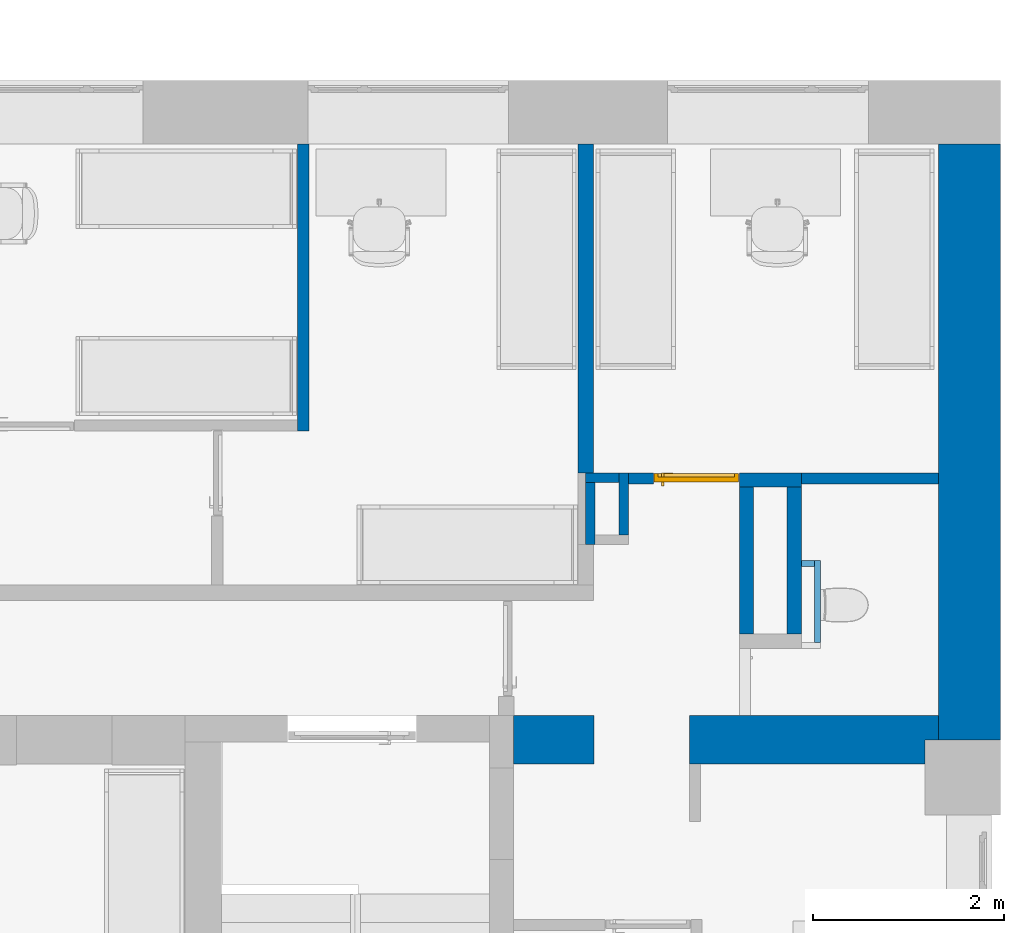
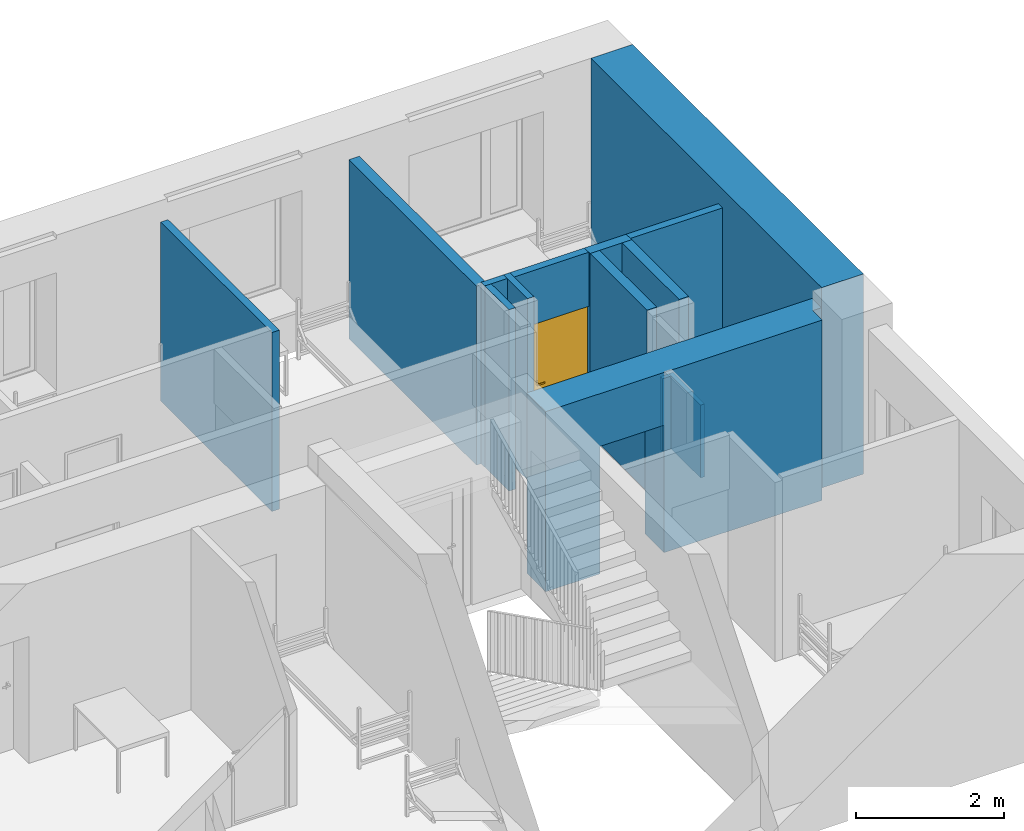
# One storey, part 13 of 48: 14 walls, 1 door, 4 openings.
"""IFC2X3 building model written with IfcOpenShell, lengths in millimetres."""

import ifcopenshell
import ifcopenshell.guid

model = None  # the IFC model being written
_history = None  # IfcOwnerHistory: only IFC2X3 demands one
_inside = {}  # id of a spatial element -> (the spatial element, [elements in it])
_under = {}  # id of a project, library or spatial element -> (it, [spatial elements below it])
_declared = {}  # id of a project -> (the project, [libraries it declares])
_typed = {}  # id of a type object -> (the type object, [elements of that type])
_made_of = {}  # id of a material, layer set ... -> (it, [elements and type objects made of it])


def new_model(schema):
    """Start an empty IFC model of exactly this schema.

    Asked for "IFC4X3", IfcOpenShell would pick the latest addendum, in which some entities
    have other attributes; the version numbers below select the first issue.
    IFC2X3 requires an IfcOwnerHistory on every rooted entity: one is made here for all.
    """
    global model, _history
    if schema == "IFC4X3":
        model = ifcopenshell.file(schema_version=(4, 3, 0, 0))
    else:
        model = ifcopenshell.file(schema=schema)
    _inside.clear()
    _under.clear()
    _declared.clear()
    _typed.clear()
    _made_of.clear()
    _history = None
    if model.schema == "IFC2X3":
        org = make("IfcOrganization", Name="unknown")
        user = make(
            "IfcPersonAndOrganization",
            ThePerson=make("IfcPerson", FamilyName="unknown"),
            TheOrganization=org,
        )
        app = make(
            "IfcApplication",
            ApplicationDeveloper=org,
            Version="unknown",
            ApplicationFullName="unknown",
            ApplicationIdentifier="unknown",
        )
        _history = make(
            "IfcOwnerHistory",
            OwningUser=user,
            OwningApplication=app,
            ChangeAction="ADDED",
            CreationDate=0,
        )
    return model


def make(cls, **values):
    """One entity of the class cls with the attributes given. An attribute that is None is left unset."""
    return model.create_entity(
        cls, **{name: value for name, value in values.items() if value is not None}
    )


def entity(cls, *values):
    """Any entity or typed value of the class cls, its attributes in the order of the schema. None: left unset."""
    e = model.create_entity(cls)
    for i, value in enumerate(values):
        if value is not None:
            e[i] = value
    return e


def rooted(cls, **values):
    """An entity with a GlobalId (a new one), such as an element, a storey or a relation."""
    return make(cls, GlobalId=ifcopenshell.guid.new(), OwnerHistory=_history, **values)


def si_unit(unit_type, name, prefix=None):
    """IfcSIUnit, for example si_unit("LENGTHUNIT", "METRE", prefix="MILLI")."""
    return make("IfcSIUnit", UnitType=unit_type, Prefix=prefix, Name=name)


def converted_unit(unit_type, name, factor, base, dimensions=None, offset=None):
    """IfcConversionBasedUnit, such as the inch: factor (a typed value) times the base unit."""
    return make(
        "IfcConversionBasedUnit"
        if offset is None
        else "IfcConversionBasedUnitWithOffset",
        ConversionOffset=offset,
        Dimensions=None
        if dimensions is None
        else entity("IfcDimensionalExponents", *dimensions),
        UnitType=unit_type,
        Name=name,
        ConversionFactor=make(
            "IfcMeasureWithUnit", ValueComponent=factor, UnitComponent=base
        ),
    )


def derived_unit(unit_type, elements):
    """IfcDerivedUnit: a product of units, each with its exponent."""
    return make(
        "IfcDerivedUnit",
        Elements=[
            make("IfcDerivedUnitElement", Unit=unit, Exponent=power)
            for unit, power in elements
        ],
        UnitType=unit_type,
    )


def assignment(units):
    """IfcUnitAssignment: the units of a project."""
    return None if units is None else make("IfcUnitAssignment", Units=units)


def point(xyz):
    """IfcCartesianPoint."""
    return None if xyz is None else make("IfcCartesianPoint", Coordinates=xyz)


def direction(xyz):
    """IfcDirection."""
    return None if xyz is None else make("IfcDirection", DirectionRatios=xyz)


def frame(location, z_axis=None, x_axis=None):
    """IfcAxis2Placement3D, a coordinate frame: its origin and axes. An axis left out is left unset."""
    return make(
        "IfcAxis2Placement3D",
        Location=point(location),
        Axis=direction(z_axis),
        RefDirection=direction(x_axis),
    )


def frame_2d(location, x_axis=None):
    """IfcAxis2Placement2D, a coordinate frame in the plane: its origin and x axis."""
    return make(
        "IfcAxis2Placement2D", Location=point(location), RefDirection=direction(x_axis)
    )


def origin():
    """The frame at (0, 0, 0) with its axes left unset."""
    return frame((0.0, 0.0, 0.0))


def place(relative_to, where):
    """IfcLocalPlacement: puts the frame where relative to a parent placement (None: the world)."""
    return make(
        "IfcLocalPlacement", PlacementRelTo=relative_to, RelativePlacement=where
    )


def context(
    kind, dimensions, precision=None, world=None, true_north=None, identifier=None
):
    """IfcGeometricRepresentationContext, for example the 3D "Model" context."""
    return make(
        "IfcGeometricRepresentationContext",
        ContextIdentifier=identifier,
        ContextType=kind,
        CoordinateSpaceDimension=dimensions,
        Precision=precision,
        WorldCoordinateSystem=world,
        TrueNorth=true_north,
    )


def subcontext(parent, identifier, kind, view, scale=None):
    """IfcGeometricRepresentationSubContext, for example "Body" below "Model"."""
    return make(
        "IfcGeometricRepresentationSubContext",
        ContextIdentifier=identifier,
        ContextType=kind,
        ParentContext=parent,
        TargetScale=scale,
        TargetView=view,
    )


def project(units=None, contexts=None):
    """IfcProject with its units and contexts."""
    return rooted(
        "IfcProject",
        Name="project",
        RepresentationContexts=contexts,
        UnitsInContext=assignment(units),
    )


def spatial(cls, under=None, at=None, **own):
    """A site, building, storey or space (cls), placed at a placement, below another one or the project."""
    s = rooted(cls, ObjectPlacement=at, **own)
    if under is not None:
        _under.setdefault(under.id(), (under, []))[1].append(s)
    return s


def profile(cls, at=None, kind="AREA", **sizes):
    """A parametric profile (cls). Its sizes go by their IFC names, for example OverallWidth=200.0."""
    return make(cls, ProfileType=kind, Position=at, **sizes)


def rectangle(**sizes):
    """IfcRectangleProfileDef."""
    return profile("IfcRectangleProfileDef", **sizes)


def extrude(swept, where, along, depth):
    """IfcExtrudedAreaSolid: the profile swept, set in the frame where, extruded along a direction by depth."""
    return make(
        "IfcExtrudedAreaSolid",
        SweptArea=swept,
        Position=where,
        ExtrudedDirection=direction(along),
        Depth=depth,
    )


def faces_of(points, faces, orient=None, outer=None):
    """IfcFace entities. A face is a list of loops; a loop is a list of indices into points, from 0.

    orient and outer hold one flag for each loop. By default every Orientation is true, the
    first loop of a face is its IfcFaceOuterBound and the others are IfcFaceBound.
    """
    made = []
    for i, loops in enumerate(faces):
        bounds = []
        for j, loop in enumerate(loops):
            is_outer = j == 0 if outer is None else outer[i][j]
            bounds.append(
                make(
                    "IfcFaceOuterBound" if is_outer else "IfcFaceBound",
                    Bound=make("IfcPolyLoop", Polygon=[points[k] for k in loop]),
                    Orientation=True if orient is None else orient[i][j],
                )
            )
        made.append(make("IfcFace", Bounds=bounds))
    return made


def faceted_brep(points, faces, orient=None, outer=None, voids=None):
    """IfcFacetedBrep: a solid bounded by flat faces; with voids (closed shells), ...WithVoids."""
    shared = [point(p) for p in points]
    hull = make("IfcClosedShell", CfsFaces=faces_of(shared, faces, orient, outer))
    if voids is None:
        return make("IfcFacetedBrep", Outer=hull)
    return make(
        "IfcFacetedBrepWithVoids",
        Outer=hull,
        Voids=[
            make(cls, CfsFaces=faces_of(shared, fs, o, b)) for cls, fs, o, b in voids
        ],
    )


def shape(context_of_items, identifier, shape_type, items):
    """IfcShapeRepresentation: the items that make up one representation, for example the "Body"."""
    return make(
        "IfcShapeRepresentation",
        ContextOfItems=context_of_items,
        RepresentationIdentifier=identifier,
        RepresentationType=shape_type,
        Items=items,
    )


def source(mapping_origin, context_of_items, identifier, shape_type, items):
    """IfcRepresentationMap: a shape defined once, which mapped items show again and again."""
    return make(
        "IfcRepresentationMap",
        MappingOrigin=mapping_origin,
        MappedRepresentation=shape(context_of_items, identifier, shape_type, items),
    )


def transform(
    local_origin,
    x_axis=None,
    y_axis=None,
    z_axis=None,
    scale=None,
    scale2=None,
    scale3=None,
    uniform=True,
):
    """IfcCartesianTransformationOperator3D, or its non-uniform kind. x_axis, y_axis, z_axis: its Axis1, 2, 3."""
    if uniform:
        return make(
            "IfcCartesianTransformationOperator3D",
            Axis1=direction(x_axis),
            Axis2=direction(y_axis),
            LocalOrigin=point(local_origin),
            Scale=scale,
            Axis3=direction(z_axis),
        )
    return make(
        "IfcCartesianTransformationOperator3DnonUniform",
        Axis1=direction(x_axis),
        Axis2=direction(y_axis),
        LocalOrigin=point(local_origin),
        Scale=scale,
        Axis3=direction(z_axis),
        Scale2=scale2,
        Scale3=scale3,
    )


def mapped(mapping_source, mapping_target):
    """IfcMappedItem: shows the shape of a source again, moved by a transform."""
    return make(
        "IfcMappedItem", MappingSource=mapping_source, MappingTarget=mapping_target
    )


def material(Name=None, Category=None):
    """IfcMaterial."""
    return make("IfcMaterial", Name=Name, Category=Category)


def material_list(materials):
    """IfcMaterialList."""
    return make("IfcMaterialList", Materials=materials)


def layer(
    of_material, thickness, ventilated=None, Name=None, Category=None, Priority=None
):
    """IfcMaterialLayer: one layer of a wall or slab, of a material (None: an air gap)."""
    return make(
        "IfcMaterialLayer",
        Material=of_material,
        LayerThickness=thickness,
        IsVentilated=ventilated,
        Name=Name,
        Category=Category,
        Priority=Priority,
    )


def layer_set(layers, Name=None):
    """IfcMaterialLayerSet."""
    return make("IfcMaterialLayerSet", MaterialLayers=layers, LayerSetName=Name)


def layer_usage(for_layer_set, set_direction, sense, offset, extent=None):
    """IfcMaterialLayerSetUsage: how a layer set lies in its element."""
    return make(
        "IfcMaterialLayerSetUsage",
        ForLayerSet=for_layer_set,
        LayerSetDirection=set_direction,
        DirectionSense=sense,
        OffsetFromReferenceLine=offset,
        ReferenceExtent=extent,
    )


def made_of(thing, what):
    """Note that an element or type object is made of a material, layer set ...; save() writes the relation."""
    if what is not None:
        _made_of.setdefault(what.id(), (what, []))[1].append(thing)
    return thing


def type_object(cls, material=None, **own):
    """A type object (cls), such as IfcWallType, which elements share."""
    return made_of(rooted(cls, **own), material)


def type_shapes(of_type, sources):
    """Give a type object the sources (RepresentationMaps) that its elements show as mapped items."""
    of_type.RepresentationMaps = sources


def element(
    cls,
    number,
    at=None,
    inside=None,
    cuts=None,
    type_object=None,
    material=None,
    context=None,
    identifier="Body",
    shape_type=None,
    held_by="IfcProductDefinitionShape",
    body=None,
    shapes=None,
    **own,
):
    """One element of the class cls, such as IfcWall. Its Tag is "e" and its number.

    at: its placement. inside: the storey or other place that contains it. cuts: it is an
    opening in that element (IfcRelVoidsElement). A single representation is given by context,
    identifier, shape_type and body (its items); several are given by shapes. held_by: the class
    of the entity that holds the representations. save() writes the other relations.
    """
    e = rooted(cls, Tag="e%d" % number, ObjectPlacement=at, **own)
    if body is not None:
        shapes = [shape(context, identifier, shape_type, body)]
    if shapes is not None:
        e.Representation = make(held_by, Representations=shapes)
    if inside is not None:
        _inside.setdefault(inside.id(), (inside, []))[1].append(e)
    if cuts is not None:
        rooted(
            "IfcRelVoidsElement", RelatingBuildingElement=cuts, RelatedOpeningElement=e
        )
    if type_object is not None:
        _typed.setdefault(type_object.id(), (type_object, []))[1].append(e)
    return made_of(e, material)


def fill(opening, filler):
    """IfcRelFillsElement: the door or window that sits in an opening."""
    return rooted(
        "IfcRelFillsElement",
        RelatingOpeningElement=opening,
        RelatedBuildingElement=filler,
    )


def aggregate(whole, parts):
    """IfcRelAggregates: a whole, such as a stair, and the parts it consists of."""
    return rooted("IfcRelAggregates", RelatingObject=whole, RelatedObjects=parts)


def save(model, path):
    """Write the relations noted so far, then the file.

    IfcRelAggregates (storeys below a building ...), IfcRelContainedInSpatialStructure (elements
    in a storey), IfcRelDefinesByType, IfcRelAssociatesMaterial and IfcRelDeclares: one each for
    every whole, place, type object, material and project.
    """
    for whole, parts in _under.values():
        aggregate(whole, parts)
    for where, things in _inside.values():
        rooted(
            "IfcRelContainedInSpatialStructure",
            RelatedElements=things,
            RelatingStructure=where,
        )
    for kind, things in _typed.values():
        rooted("IfcRelDefinesByType", RelatedObjects=things, RelatingType=kind)
    for what, things in _made_of.values():
        rooted("IfcRelAssociatesMaterial", RelatedObjects=things, RelatingMaterial=what)
    for by, libraries in _declared.values():
        rooted("IfcRelDeclares", RelatingContext=by, RelatedDefinitions=libraries)
    model.write(path)


model = new_model("IFC2X3")

# Units and contexts
model_context = context("Model", 3, precision=0.01, world=origin(), true_north=direction((6.12303176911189e-17, 1.0)))
body_context = subcontext(model_context, "Body", "Model", "MODEL_VIEW")
ifc_project = project(units=[si_unit("LENGTHUNIT", "METRE", prefix="MILLI"), si_unit("AREAUNIT", "SQUARE_METRE"), si_unit("VOLUMEUNIT", "CUBIC_METRE"), converted_unit("PLANEANGLEUNIT", "DEGREE", entity("IfcRatioMeasure", 0.0174532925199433), si_unit("PLANEANGLEUNIT", "RADIAN"), dimensions=[0, 0, 0, 0, 0, 0, 0]), si_unit("MASSUNIT", "GRAM", prefix="KILO"), derived_unit("MASSDENSITYUNIT", [(si_unit("MASSUNIT", "GRAM", prefix="KILO"), 1), (si_unit("LENGTHUNIT", "METRE"), -3)]), si_unit("TIMEUNIT", "SECOND"), si_unit("FREQUENCYUNIT", "HERTZ"), si_unit("THERMODYNAMICTEMPERATUREUNIT", "DEGREE_CELSIUS"), derived_unit("THERMALTRANSMITTANCEUNIT", [(si_unit("MASSUNIT", "GRAM", prefix="KILO"), 1), (si_unit("THERMODYNAMICTEMPERATUREUNIT", "KELVIN"), -1), (si_unit("TIMEUNIT", "SECOND"), -3)]), derived_unit("VOLUMETRICFLOWRATEUNIT", [(si_unit("LENGTHUNIT", "METRE"), 3), (si_unit("TIMEUNIT", "SECOND"), -1)]), si_unit("ELECTRICCURRENTUNIT", "AMPERE"), si_unit("ELECTRICVOLTAGEUNIT", "VOLT"), si_unit("POWERUNIT", "WATT"), si_unit("FORCEUNIT", "NEWTON", prefix="KILO"), si_unit("ILLUMINANCEUNIT", "LUX"), si_unit("LUMINOUSFLUXUNIT", "LUMEN"), si_unit("LUMINOUSINTENSITYUNIT", "CANDELA"), derived_unit("USERDEFINED", [(si_unit("MASSUNIT", "GRAM", prefix="KILO"), -1), (si_unit("LENGTHUNIT", "METRE"), -2), (si_unit("TIMEUNIT", "SECOND"), 3), (si_unit("LUMINOUSFLUXUNIT", "LUMEN"), 1)]), derived_unit("LINEARVELOCITYUNIT", [(si_unit("LENGTHUNIT", "METRE"), 1), (si_unit("TIMEUNIT", "SECOND"), -1)]), si_unit("PRESSUREUNIT", "PASCAL"), derived_unit("USERDEFINED", [(si_unit("LENGTHUNIT", "METRE"), -2), (si_unit("MASSUNIT", "GRAM", prefix="KILO"), 1), (si_unit("TIMEUNIT", "SECOND"), -2)]), derived_unit("LINEARFORCEUNIT", [(si_unit("MASSUNIT", "GRAM", prefix="KILO"), 1), (si_unit("LENGTHUNIT", "METRE"), 1), (si_unit("TIMEUNIT", "SECOND"), -2), (si_unit("LENGTHUNIT", "METRE"), -1)]), derived_unit("PLANARFORCEUNIT", [(si_unit("MASSUNIT", "GRAM", prefix="KILO"), 1), (si_unit("LENGTHUNIT", "METRE"), 1), (si_unit("TIMEUNIT", "SECOND"), -2), (si_unit("LENGTHUNIT", "METRE"), -2)])], contexts=[model_context])

# Site, building, storey
site_placement = place(None, origin())
site = spatial("IfcSite", under=ifc_project, at=site_placement, Name="Default", CompositionType="ELEMENT")
building_placement = place(site_placement, origin())
building = spatial("IfcBuilding", under=site, at=building_placement, Name="SMA ARH", CompositionType="ELEMENT")
storey_placement = place(building_placement, frame((0.0, 0.0, 3300.0)))
storey = spatial("IfcBuildingStorey", under=building, at=storey_placement, Name="2 Korrus", CompositionType="ELEMENT", Elevation=3299.99999999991)

# Wall
ifc_material_1 = material(Name="_ol.olev sein")
ifc_layer_1 = layer(ifc_material_1, 650.0)
ifc_layer_set_1 = layer_set([ifc_layer_1], Name="Basic Wall:Generic - 650mm")
ifc_layer_usage_1 = layer_usage(ifc_layer_set_1, "AXIS2", "POSITIVE", -325.0)
wall_type_1 = type_object("IfcWallType", Name="Basic Wall:Generic - 650mm", PredefinedType="STANDARD", material=ifc_layer_set_1)
wall_1_placement = place(storey_placement, frame((38640.0, 6265.0, 0.0), z_axis=(0.0, 0.0, 1.0), x_axis=(0.0, 1.0, 0.0)))
element("IfcWallStandardCase", 1, at=wall_1_placement, inside=storey, type_object=wall_type_1, material=ifc_layer_usage_1, Name="Basic Wall:Generic - 650mm", ObjectType="Basic Wall:Generic - 650mm", context=body_context, shape_type="SweptSolid", body=[
    extrude(rectangle(XDim=6234.99999999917, YDim=650.0, at=frame_2d((3117.49999999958, -2.27373675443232e-13), x_axis=(-1.0, 0.0))), origin(), (0.0, 0.0, 1.0), 3299.99999999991),
])

# Wall, opening
ifc_material_2 = material(Name="EST. Müüritis. Väikeplokk. Kergkruusplokk")
ifc_layer_2 = layer(ifc_material_2, 150.0)
ifc_layer_set_2 = layer_set([ifc_layer_2], Name="Basic Wall:SS-02_ 150mm šahtide vahesein")
ifc_layer_usage_2 = layer_usage(ifc_layer_set_2, "AXIS2", "POSITIVE", -75.0)
wall_type_2 = type_object("IfcWallType", Name="Basic Wall:SS-02_ 150mm šahtide vahesein", PredefinedType="STANDARD", material=ifc_layer_set_2)
wall_2_placement = place(storey_placement, frame((36230.0, 8984.5014052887, 0.0)))
wall_2 = element("IfcWallStandardCase", 2, at=wall_2_placement, inside=storey, type_object=wall_type_2, material=ifc_layer_usage_2, Name="Basic Wall:SS-02_ 150mm šahtide vahesein", ObjectType="Basic Wall:SS-02_ 150mm šahtide vahesein", context=body_context, shape_type="SweptSolid", body=[
    extrude(rectangle(XDim=649.999999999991, YDim=150.000000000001, at=frame_2d((324.999999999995, 4.68958205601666e-13), x_axis=(-1.0, 0.0))), origin(), (0.0, 0.0, 1.0), 2989.99999999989),
])
opening_1_placement = place(wall_2_placement, origin())
element("IfcOpeningElement", 3, at=opening_1_placement, cuts=wall_2, Name="Basic Wall:SS-02_ 150mm šahtide vahesein", ObjectType="Opening", context=body_context, shape_type="SweptSolid", body=[
    extrude(rectangle(XDim=2099.99999999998, YDim=899.999999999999, at=frame_2d((-2.1600499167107e-12, 0.0), x_axis=(0.0, 1.0))), frame((-450.0, -1449.0, 1050.0), z_axis=(0.0, 1.0, 0.0), x_axis=(-1.0, 0.0, 0.0)), (0.0, 0.0, 1.0), 3048.0),
])

# Wall
ifc_layer_usage_3 = layer_usage(ifc_layer_set_2, "AXIS2", "POSITIVE", -75.0)
wall_3_placement = place(storey_placement, frame((36805.0, 8909.5014052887, 0.0), z_axis=(0.0, 0.0, 1.0), x_axis=(0.0, -1.0, 0.0)))
element("IfcWallStandardCase", 4, at=wall_3_placement, inside=storey, type_object=wall_type_2, material=ifc_layer_usage_3, Name="Basic Wall:SS-02_ 150mm šahtide vahesein", ObjectType="Basic Wall:SS-02_ 150mm šahtide vahesein", context=body_context, shape_type="SweptSolid", body=[
    extrude(rectangle(XDim=1539.50139590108, YDim=150.000000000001, at=frame_2d((769.750697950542, 0.0), x_axis=(-1.0, 0.0))), origin(), (0.0, 0.0, 1.0), 2989.99999999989),
])

# Wall, openings
ifc_layer_usage_4 = layer_usage(ifc_layer_set_2, "AXIS2", "POSITIVE", -75.0)
wall_4_placement = place(storey_placement, frame((36305.0, 7370.0, 0.0), z_axis=(0.0, 0.0, 1.0), x_axis=(0.0, 1.0, 0.0)))
wall_4 = element("IfcWallStandardCase", 5, at=wall_4_placement, inside=storey, type_object=wall_type_2, material=ifc_layer_usage_4, Name="Basic Wall:SS-02_ 150mm šahtide vahesein", ObjectType="Basic Wall:SS-02_ 150mm šahtide vahesein", context=body_context, shape_type="SweptSolid", body=[
    extrude(rectangle(XDim=1539.50139590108, YDim=150.000000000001, at=frame_2d((769.750697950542, 0.0), x_axis=(-1.0, 0.0))), origin(), (0.0, 0.0, 1.0), 2989.99999999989),
])
opening_2_placement = place(wall_4_placement, origin())
element("IfcOpeningElement", 6, at=opening_2_placement, cuts=wall_4, Name="Basic Wall:SS-02_ 150mm šahtide vahesein", ObjectType="Opening", context=body_context, shape_type="SweptSolid", body=[
    extrude(rectangle(XDim=2099.99999999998, YDim=700.0, at=frame_2d((0.0, 5.40012479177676e-13), x_axis=(1.0, 0.0))), frame((-500.000009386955, -1449.0, 1050.0), z_axis=(0.0, 1.0, 0.0), x_axis=(0.0, 0.0, 1.0)), (0.0, 0.0, 1.0), 3048.0),
])
opening_3_placement = place(wall_4_placement, origin())
element("IfcOpeningElement", 7, at=opening_3_placement, cuts=wall_4, Name="Basic Wall:SS-02_ 150mm šahtide vahesein", ObjectType="Opening", context=body_context, shape_type="SweptSolid", body=[
    extrude(rectangle(XDim=2099.99999999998, YDim=116.0, at=frame_2d((0.0, 0.0), x_axis=(0.0, 1.0))), frame((1631.50139590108, 75.0, 1050.0), z_axis=(0.0, 1.0, 0.0), x_axis=(1.0, 0.0, 0.0)), (0.0, 0.0, 1.0), 899.999999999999),
])

# Walls
ifc_layer_3 = layer(ifc_material_1, 510.0)
ifc_layer_set_3 = layer_set([ifc_layer_3], Name="Basic Wall:Generic - 510mm")
wall_type_3 = type_object("IfcWallType", Name="Basic Wall:Generic - 510mm", PredefinedType="STANDARD", material=ifc_layer_set_3)
wall_5_placement = place(storey_placement, frame((38315.0, 6265.0, 0.0), z_axis=(0.0, 0.0, 1.0), x_axis=(-1.0, 0.0, 0.0)))
element("IfcWall", 8, at=wall_5_placement, inside=storey, type_object=wall_type_3, material=ifc_material_1, Name="Basic Wall:Generic - 510mm", ObjectType="Basic Wall:Generic - 510mm", context=body_context, shape_type="Brep", body=[
    faceted_brep([(2605.0, -255.0, 2100.0), (3605.0, -255.0, 2100.0), (3605.0, -255.0, 0.0), (4450.0, -255.0, 0.0), (4450.0, -255.0, 2970.0), (0.0, -255.0, 2970.0), (0.0, -255.0, 0.0), (2605.0, -255.0, 0.0), (3605.0, 255.0, 2100.0), (2605.0, 255.0, 2100.0), (2605.0, 255.0, 0.0), (2489.0, 255.0, 0.0), (140.0, 255.0, 0.0), (140.0, 255.0, 2970.0), (4450.0, 255.0, 2970.0), (4450.0, 255.0, 0.0), (3605.0, 255.0, 0.0), (0.0, 0.0, 0.0), (140.0, 0.0, 0.0), (0.0, 0.0, 2970.0), (140.0, 0.0, 2970.0), (4450.0, -245.0, 2970.0)], [[[0, 1, 2, 3, 4, 5, 6, 7]], [[8, 9, 10, 11, 12, 13, 14, 15, 16]], [[6, 17, 18, 12, 11, 10, 7]], [[17, 6, 5, 19]], [[18, 17, 19, 20]], [[12, 18, 20, 13]], [[8, 1, 0, 9]], [[1, 8, 16, 2]], [[9, 0, 7, 10]], [[3, 15, 14, 21, 4]], [[5, 4, 21, 14, 13, 20, 19]], [[15, 3, 2, 16]]]),
])
ifc_material_3 = material(Name="EST. Ehitusplaat. Kipsplaat")
ifc_layer_4 = layer(ifc_material_3, 12.5)
ifc_layer_5 = layer(ifc_material_3, 12.5)
ifc_material_4 = material(Name="EST. Soojustus. Mineraalvill. Default")
ifc_layer_6 = layer(ifc_material_4, 50.0)
ifc_layer_7 = layer(ifc_material_3, 12.5)
ifc_layer_8 = layer(ifc_material_4, 50.0)
ifc_layer_9 = layer(ifc_material_3, 12.5)
ifc_layer_10 = layer(ifc_material_3, 12.5)
ifc_layer_set_4 = layer_set([ifc_layer_4, ifc_layer_5, ifc_layer_6, ifc_layer_7, ifc_layer_8, ifc_layer_9, ifc_layer_10], Name="Basic Wall:SS-04_Kips, 50+50 mm metallkarkass 2")
ifc_layer_usage_5 = layer_usage(ifc_layer_set_4, "AXIS2", "NEGATIVE", 81.25)
wall_type_4 = type_object("IfcWallType", Name="Basic Wall:SS-04_Kips, 50+50 mm metallkarkass 2", PredefinedType="STANDARD", material=ifc_layer_set_4)
wall_6_placement = place(storey_placement, frame((34625.5000000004, 12500.0, 0.0), z_axis=(0.0, 0.0, 1.0), x_axis=(0.0, -1.0, 0.0)))
element("IfcWallStandardCase", 9, at=wall_6_placement, inside=storey, type_object=wall_type_4, material=ifc_layer_usage_5, Name="Basic Wall:SS-04_Kips, 50+50 mm metallkarkass 2", ObjectType="Basic Wall:SS-04_Kips, 50+50 mm metallkarkass 2", context=body_context, shape_type="SweptSolid", body=[
    extrude(rectangle(XDim=3440.49859471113, YDim=162.499999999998, at=frame_2d((1720.24929735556, 1.70530256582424e-13), x_axis=(-1.0, 0.0))), origin(), (0.0, 0.0, 1.0), 2949.99999999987),
])
ifc_layer_11 = layer(ifc_material_3, 12.5)
ifc_layer_12 = layer(ifc_material_3, 12.5)
ifc_layer_13 = layer(ifc_material_4, 66.0)
ifc_layer_14 = layer(ifc_material_3, 12.5)
ifc_layer_15 = layer(ifc_material_3, 12.5)
ifc_layer_set_5 = layer_set([ifc_layer_11, ifc_layer_12, ifc_layer_13, ifc_layer_14, ifc_layer_15], Name="Basic Wall:SS-05_Kips, 66mm metallkarkass")
ifc_layer_usage_6 = layer_usage(ifc_layer_set_5, "AXIS2", "NEGATIVE", 58.0)
wall_type_5 = type_object("IfcWallType", Name="Basic Wall:SS-05_Kips, 66mm metallkarkass", PredefinedType="STANDARD", material=ifc_layer_set_5)
wall_7_placement = place(storey_placement, frame((31667.0, 12500.0, 0.0), z_axis=(0.0, 0.0, 1.0), x_axis=(0.0, -1.0, 0.0)))
element("IfcWallStandardCase", 10, at=wall_7_placement, inside=storey, type_object=wall_type_5, material=ifc_layer_usage_6, Name="Basic Wall:SS-05_Kips, 66mm metallkarkass", ObjectType="Basic Wall:SS-05_Kips, 66mm metallkarkass", context=body_context, shape_type="SweptSolid", body=[
    extrude(rectangle(XDim=3005.49999999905, YDim=116.0, at=frame_2d((1502.74999999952, -1.27897692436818e-13), x_axis=(-1.0, 0.0))), origin(), (0.0, 0.0, 1.0), 2949.99999999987),
])
ifc_layer_usage_7 = layer_usage(ifc_layer_set_5, "AXIS2", "NEGATIVE", 58.0)
wall_8_placement = place(storey_placement, frame((36880.0, 9001.5014052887, 0.0)))
element("IfcWallStandardCase", 11, at=wall_8_placement, inside=storey, type_object=wall_type_5, material=ifc_layer_usage_7, Name="Basic Wall:SS-05_Kips, 66mm metallkarkass", ObjectType="Basic Wall:SS-05_Kips, 66mm metallkarkass", context=body_context, shape_type="SweptSolid", body=[
    extrude(rectangle(XDim=1435.00001631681, YDim=116.0, at=frame_2d((717.500008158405, 4.2632564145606e-14), x_axis=(-1.0, 0.0))), origin(), (0.0, 0.0, 1.0), 2989.99999999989),
])

# Wall, opening, door
ifc_layer_usage_8 = layer_usage(ifc_layer_set_5, "AXIS2", "NEGATIVE", 58.0)
wall_9_placement = place(storey_placement, frame((36230.0, 9001.5014052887, 0.0), z_axis=(0.0, 0.0, 1.0), x_axis=(-1.0, 0.0, 0.0)))
wall_9 = element("IfcWallStandardCase", 12, at=wall_9_placement, inside=storey, type_object=wall_type_5, material=ifc_layer_usage_8, Name="Basic Wall:SS-05_Kips, 66mm metallkarkass", ObjectType="Basic Wall:SS-05_Kips, 66mm metallkarkass", context=body_context, shape_type="SweptSolid", body=[
    extrude(rectangle(XDim=1160.7499836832, YDim=116.0, at=frame_2d((580.374991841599, 2.70006239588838e-13), x_axis=(-1.0, 0.0))), origin(), (0.0, 0.0, 1.0), 2989.99999999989),
])
opening_4_placement = place(wall_9_placement, frame((1.63164025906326e-05, -58.0, 0.0)))
opening_4 = element("IfcOpeningElement", 13, at=opening_4_placement, cuts=wall_9, Name="SMA_D01, 1-poolne:SU-P-05 - 900x2100 TUBA:1", ObjectType="Opening", context=body_context, shape_type="SweptSolid", body=[
    extrude(rectangle(XDim=2099.99999999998, YDim=900.0, at=frame_2d((1049.99999999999, 450.0), x_axis=(1.0, 0.0))), frame((0.0, 0.0, 0.0), z_axis=(0.0, 1.0, 0.0), x_axis=(0.0, 0.0, 1.0)), (0.0, 0.0, 1.0), 116.0),
])
ifc_material_5 = material(Name="EST. Metall. Alumiinium. Värvitud. RAL7023 (Concrete grey)")
ifc_material_6 = material(Name="<Unnamed>")
ifc_material_7 = material(Name="EST. Klaas. 3x. Default")
ifc_material_list = material_list([ifc_material_5, ifc_material_6, ifc_material_5, ifc_material_6, ifc_material_6, ifc_material_7, ifc_material_5])
door_style = type_object("IfcDoorStyle", Name="SMA_D01, 1-poolne:SU-P-05 - 900x2100 TUBA", ConstructionType="NOTDEFINED", OperationType="SINGLE_SWING_LEFT", ParameterTakesPrecedence=False, Sizeable=False, material=ifc_material_list)
shared_shape = source(origin(), body_context, "Body", "Brep", [
    faceted_brep([(790.0, 6.0, 1112.5), (695.0, 6.0, 1112.5), (695.0, 1.0, 1112.5), (815.0, 1.0, 1112.5), (815.0, 44.0, 1112.5), (790.0, 44.0, 1112.5), (790.0, 6.0, 1087.5), (790.0, 44.0, 1087.5), (815.0, 44.0, 1087.5), (815.0, 1.0, 1087.5), (695.0, 1.0, 1087.5), (695.0, 6.0, 1087.5)], [[[0, 1, 2, 3, 4, 5]], [[6, 7, 8, 9, 10, 11]], [[5, 7, 6, 0]], [[4, 8, 7, 5]], [[3, 9, 8, 4]], [[2, 10, 9, 3]], [[1, 11, 10, 2]], [[0, 6, 11, 1]]]),
    faceted_brep([(777.500000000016, 44.0, 1137.5), (827.500000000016, 44.0, 1137.5), (827.500000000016, 46.0, 1137.5), (777.500000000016, 46.0, 1137.5), (777.500000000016, 44.0, 1017.5), (777.500000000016, 46.0, 1017.5), (827.500000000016, 46.0, 1017.5), (827.500000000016, 44.0, 1017.5)], [[[0, 1, 2, 3]], [[4, 5, 6, 7]], [[3, 5, 4, 0]], [[2, 6, 5, 3]], [[1, 7, 6, 2]], [[0, 4, 7, 1]]]),
    faceted_brep([(790.0, 136.0, 1112.5), (790.0, 98.0, 1112.5), (815.0, 98.0, 1112.5), (815.0, 141.0, 1112.5), (695.0, 141.0, 1112.5), (695.0, 136.0, 1112.5), (790.0, 136.0, 1087.5), (695.0, 136.0, 1087.5), (695.0, 141.0, 1087.5), (815.0, 141.0, 1087.5), (815.0, 98.0, 1087.5), (790.0, 98.0, 1087.5)], [[[0, 1, 2, 3, 4, 5]], [[6, 7, 8, 9, 10, 11]], [[1, 0, 6, 11]], [[2, 1, 11, 10]], [[3, 2, 10, 9]], [[4, 3, 9, 8]], [[5, 4, 8, 7]], [[0, 5, 7, 6]]]),
    faceted_brep([(777.500000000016, 98.0, 1137.5), (777.500000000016, 96.0, 1137.5), (827.500000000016, 96.0, 1137.5), (827.500000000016, 98.0, 1137.5), (777.500000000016, 98.0, 1017.5), (827.500000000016, 98.0, 1017.5), (827.500000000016, 96.0, 1017.5), (777.500000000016, 96.0, 1017.5)], [[[0, 1, 2, 3]], [[4, 5, 6, 7]], [[1, 0, 4, 7]], [[2, 1, 7, 6]], [[3, 2, 6, 5]], [[0, 3, 5, 4]]]),
    faceted_brep([(50.0, 6.0, 30.0), (50.0, 46.0, 30.0), (50.0, 46.0, 20.0), (50.0, 46.0, 0.0), (50.0, 6.0, 0.0), (850.0, 6.0, 30.0), (850.0, 6.0, 0.0), (850.0, 46.0, 0.0), (850.0, 46.0, 20.0), (850.0, 46.0, 30.0), (35.0, 46.0, 0.0), (35.0, 96.0, 0.0), (865.0, 96.0, 0.0), (865.0, 46.0, 0.0), (35.0, 96.0, 20.0), (35.0, 46.0, 20.0), (865.0, 96.0, 20.0), (865.0, 46.0, 20.0)], [[[0, 1, 2, 3, 4]], [[5, 6, 7, 8, 9]], [[4, 6, 5, 0]], [[3, 10, 11, 12, 13, 7, 6, 4]], [[9, 8, 2, 1]], [[0, 5, 9, 1]], [[14, 11, 10, 15]], [[16, 17, 13, 12]], [[15, 2, 8, 17, 16, 14]], [[10, 3, 2, 15]], [[14, 16, 12, 11]], [[17, 8, 7, 13]]]),
    faceted_brep([(10.0, 6.0, 0.0), (10.0, 96.0, 0.0), (35.0, 96.0, 0.0), (35.0, 46.0, 0.0), (50.0, 46.0, 0.0), (50.0, 6.0, 0.0), (50.0, 6.0, 2050.0), (850.0, 6.0, 2050.0), (850.0, 6.0, 0.0), (890.0, 6.0, 0.0), (890.0, 6.0, 2090.0), (10.0, 6.0, 2090.0), (50.0, 46.0, 2050.0), (35.0, 46.0, 2065.0), (865.0, 46.0, 2065.0), (865.0, 46.0, 0.0), (850.0, 46.0, 0.0), (850.0, 46.0, 2050.0), (35.0, 96.0, 2065.0), (10.0, 96.0, 2090.0), (890.0, 96.0, 2090.0), (890.0, 96.0, 0.0), (865.0, 96.0, 0.0), (865.0, 96.0, 2065.0)], [[[0, 1, 2, 3, 4, 5]], [[5, 6, 7, 8, 9, 10, 11, 0]], [[4, 12, 6, 5]], [[3, 13, 14, 15, 16, 17, 12, 4]], [[2, 18, 13, 3]], [[1, 19, 20, 21, 22, 23, 18, 2]], [[0, 11, 19, 1]], [[9, 21, 20, 10]], [[8, 16, 15, 22, 21, 9]], [[7, 17, 16, 8]], [[14, 23, 22, 15]], [[6, 12, 17, 7]], [[13, 18, 23, 14]], [[10, 20, 19, 11]]]),
    faceted_brep([(865.0, 46.0, 2065.0), (35.0, 46.0, 2065.0), (35.0, 46.0, 20.0), (865.0, 46.0, 20.0), (865.0, 96.0, 2065.0), (865.0, 96.0, 20.0), (35.0, 96.0, 20.0), (35.0, 96.0, 2065.0)], [[[0, 1, 2, 3]], [[4, 5, 6, 7]], [[3, 5, 4, 0]], [[2, 6, 5, 3]], [[1, 7, 6, 2]], [[0, 4, 7, 1]]]),
])
type_shapes(door_style, [shared_shape])
door_placement = place(opening_4_placement, frame((-1.63164004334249e-05, 0.0, 0.0)))
door = element("IfcDoor", 14, at=door_placement, inside=storey, type_object=door_style, material=ifc_material_5, Name="SMA_D01, 1-poolne:SU-P-05 - 900x2100 TUBA", ObjectType="SMA_D01, 1-poolne:SU-P-05 - 900x2100 TUBA", OverallHeight=2099.99999999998, OverallWidth=899.999999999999, context=body_context, shape_type="MappedRepresentation", body=[
    mapped(shared_shape, transform((0.0, 0.0, 0.0), scale=1.0)),
])
fill(opening_4, door)

# Walls
ifc_material_8 = material(Name="EST. Põrand. Plaatkate")
ifc_layer_16 = layer(ifc_material_8, 10.0)
ifc_layer_17 = layer(ifc_material_3, 12.5)
ifc_material_9 = material(Name="EST. Õhkvahe. Roov. Kipsplaadi alusroov. Vertikaalne")
ifc_layer_18 = layer(ifc_material_9, 42.0)
ifc_layer_set_6 = layer_set([ifc_layer_16, ifc_layer_17, ifc_layer_18], Name="Basic Wall:SS-04 - loputuskast")
ifc_layer_usage_9 = layer_usage(ifc_layer_set_6, "AXIS2", "POSITIVE", -32.25)
wall_type_6 = type_object("IfcWallType", Name="Basic Wall:SS-04 - loputuskast", PredefinedType="STANDARD", material=ifc_layer_set_6)
wall_10_placement = place(storey_placement, frame((37047.7499836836, 7284.50000938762, 0.0), z_axis=(0.0, 0.0, 1.0), x_axis=(0.0, 1.0, 0.0)))
element("IfcWallStandardCase", 15, at=wall_10_placement, inside=storey, type_object=wall_type_6, material=ifc_layer_usage_9, Name="Basic Wall:SS-04 - loputuskast", ObjectType="Basic Wall:SS-04 - loputuskast", context=body_context, shape_type="SweptSolid", body=[
    extrude(rectangle(XDim=859.001395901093, YDim=64.5000000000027, at=frame_2d((429.500697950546, 2.03570493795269e-12), x_axis=(-1.0, 0.0))), origin(), (0.0, 0.0, 1.0), 1200.0),
])
ifc_layer_usage_10 = layer_usage(ifc_layer_set_6, "AXIS2", "POSITIVE", -32.25)
wall_11_placement = place(storey_placement, frame((37015.4999836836, 8111.25140528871, 0.0), z_axis=(0.0, 0.0, 1.0), x_axis=(-1.0, 0.0, 0.0)))
element("IfcWallStandardCase", 16, at=wall_11_placement, inside=storey, type_object=wall_type_6, material=ifc_layer_usage_10, Name="Basic Wall:SS-04 - loputuskast", ObjectType="Basic Wall:SS-04 - loputuskast", context=body_context, shape_type="SweptSolid", body=[
    extrude(rectangle(XDim=135.499999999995, YDim=64.5000000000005, at=frame_2d((67.7499999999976, -1.03028696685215e-13), x_axis=(-1.0, 0.0))), origin(), (0.0, 0.0, 1.0), 1200.0),
])
ifc_layer_19 = layer(ifc_material_2, 100.0)
ifc_layer_set_7 = layer_set([ifc_layer_19], Name="Basic Wall:SS-02_ 100mm šahtide vahesein 2")
ifc_layer_usage_11 = layer_usage(ifc_layer_set_7, "AXIS2", "NEGATIVE", 50.0)
wall_type_7 = type_object("IfcWallType", Name="Basic Wall:SS-02_ 100mm šahtide vahesein 2", PredefinedType="STANDARD", material=ifc_layer_set_7)
wall_12_placement = place(storey_placement, frame((34619.2500000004, 9009.5014052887, 0.0)))
element("IfcWallStandardCase", 17, at=wall_12_placement, inside=storey, type_object=wall_type_7, material=ifc_layer_usage_11, Name="Basic Wall:SS-02_ 100mm šahtide vahesein 2", ObjectType="Basic Wall:SS-02_ 100mm šahtide vahesein 2", context=body_context, shape_type="SweptSolid", body=[
    extrude(rectangle(XDim=350.000000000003, YDim=99.9999999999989, at=frame_2d((175.000000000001, 6.3948846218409e-14), x_axis=(-1.0, 0.0))), origin(), (0.0, 0.0, 1.0), 2989.99999999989),
])
ifc_layer_usage_12 = layer_usage(ifc_layer_set_7, "AXIS2", "NEGATIVE", 50.0)
wall_13_placement = place(storey_placement, frame((34669.2500000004, 8959.5014052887, 0.0), z_axis=(0.0, 0.0, 1.0), x_axis=(0.0, -1.0, 0.0)))
element("IfcWallStandardCase", 18, at=wall_13_placement, inside=storey, type_object=wall_type_7, material=ifc_layer_usage_12, Name="Basic Wall:SS-02_ 100mm šahtide vahesein 2", ObjectType="Basic Wall:SS-02_ 100mm šahtide vahesein 2", context=body_context, shape_type="SweptSolid", body=[
    extrude(rectangle(XDim=650.00000000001, YDim=100.000000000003, at=frame_2d((325.000000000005, 0.0), x_axis=(-1.0, 0.0))), origin(), (0.0, 0.0, 1.0), 2989.99999999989),
])
ifc_layer_usage_13 = layer_usage(ifc_layer_set_7, "AXIS2", "POSITIVE", -50.0)
wall_14_placement = place(storey_placement, frame((35019.2500000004, 9059.5014052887, 0.0), z_axis=(0.0, 0.0, 1.0), x_axis=(0.0, -1.0, 0.0)))
element("IfcWallStandardCase", 19, at=wall_14_placement, inside=storey, type_object=wall_type_7, material=ifc_layer_usage_13, Name="Basic Wall:SS-02_ 100mm šahtide vahesein 2", ObjectType="Basic Wall:SS-02_ 100mm šahtide vahesein 2", context=body_context, shape_type="SweptSolid", body=[
    extrude(rectangle(XDim=650.000000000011, YDim=100.000000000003, at=frame_2d((325.000000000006, 0.0), x_axis=(-1.0, 0.0))), origin(), (0.0, 0.0, 1.0), 2989.99999999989),
])

save(model, "model.ifc")
